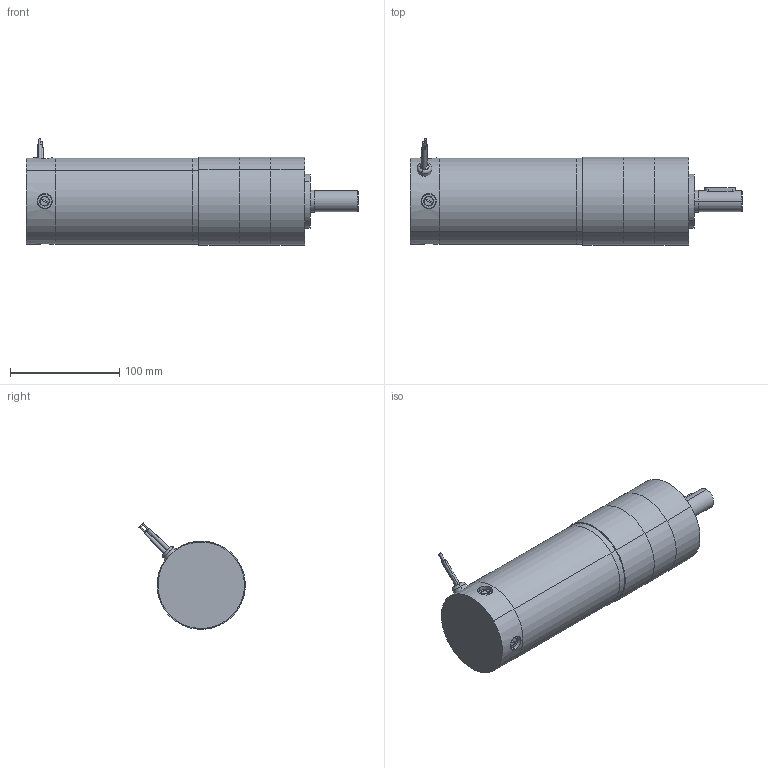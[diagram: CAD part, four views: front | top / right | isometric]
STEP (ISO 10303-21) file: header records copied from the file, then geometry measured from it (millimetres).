
FILE_DESCRIPTION (( 'STEP AP203' ), '1' );
FILE_NAME ('d33655bgp1.step', '2018-12-07T19:34:52', ( '' ), ( '' ), 'SwSTEP 2.0', 'SolidWorks 2017', '' );
FILE_SCHEMA (( 'CONFIG_CONTROL_DESIGN' ));
Length unit declared in the file: inch
Products named in the file (1): d33655bgp1
Bounding box: 304.55 x 97.55 x 97.55 mm (x, y, z)
Volume: 1307317.3 mm3; surface area: 159858.3 mm2
Topology: 19 solids, 19 shells, 356 faces, 752 edges, 470 vertices
Faces by surface type: cylinder 151, plane 150, cone 45, torus 6, sphere 4
Entity records: 10004 total; most frequent: CARTESIAN_POINT 2093, DIRECTION 1771, ORIENTED_EDGE 1472, EDGE_CURVE 736, AXIS2_PLACEMENT_3D 708, VERTEX_POINT 470, EDGE_LOOP 424, ADVANCED_FACE 356
